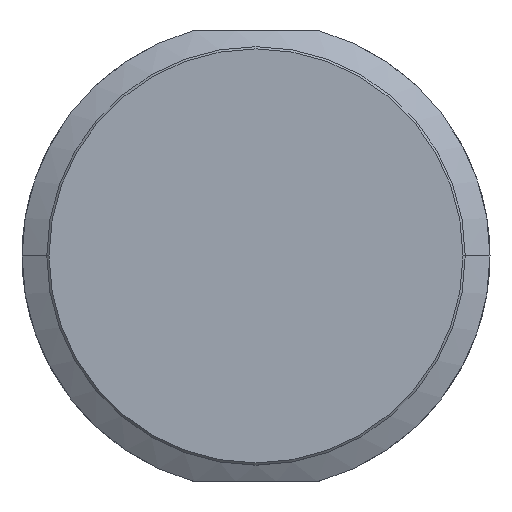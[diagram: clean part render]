
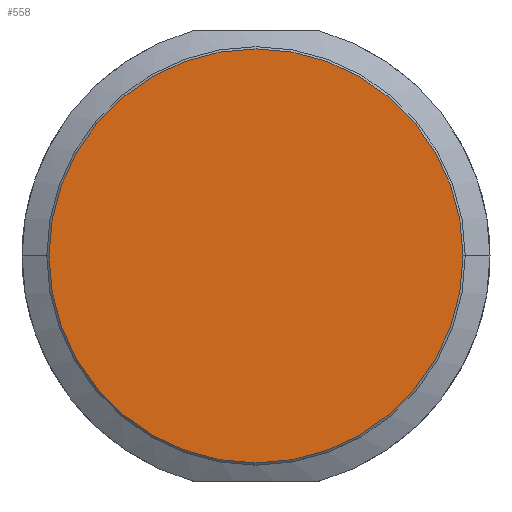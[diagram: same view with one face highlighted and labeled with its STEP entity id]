
A CAD part, top view. The second image highlights one B-rep face of the part: STEP entity #558.
In plain terms, the highlighted planar face has unit normal (0, 0, 1).
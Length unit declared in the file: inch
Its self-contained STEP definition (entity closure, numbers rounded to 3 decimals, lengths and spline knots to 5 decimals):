
#152=CARTESIAN_POINT('',(0.,0.,0.));
#153=DIRECTION('',(0.,0.,1.));
#154=DIRECTION('',(-1.,0.,0.));
#155=AXIS2_PLACEMENT_3D('',#152,#153,#154);
#157=CARTESIAN_POINT('',(0.,0.,0.));
#158=DIRECTION('',(0.,0.,1.));
#159=DIRECTION('',(1.,0.,0.));
#160=AXIS2_PLACEMENT_3D('',#157,#158,#159);
#304=CARTESIAN_POINT('',(-1.88,0.,0.));
#305=CARTESIAN_POINT('',(1.88,0.,0.));
#306=VERTEX_POINT('',#304);
#307=VERTEX_POINT('',#305);
#548=CARTESIAN_POINT('',(0.,0.,0.));
#549=DIRECTION('',(0.,0.,-1.));
#550=DIRECTION('',(-1.,0.,0.));
#551=AXIS2_PLACEMENT_3D('',#548,#549,#550);
#552=PLANE('',#551);
#554=ORIENTED_EDGE('',*,*,#553,.F.);
#555=ORIENTED_EDGE('',*,*,#538,.F.);
#556=EDGE_LOOP('',(#554,#555));
#557=FACE_OUTER_BOUND('',#556,.F.);
#558=ADVANCED_FACE('',(#557),#552,.F.);
#156=CIRCLE('',#155,1.88);
#161=CIRCLE('',#160,1.88);
#538=EDGE_CURVE('',#307,#306,#161,.T.);
#553=EDGE_CURVE('',#306,#307,#156,.T.);
